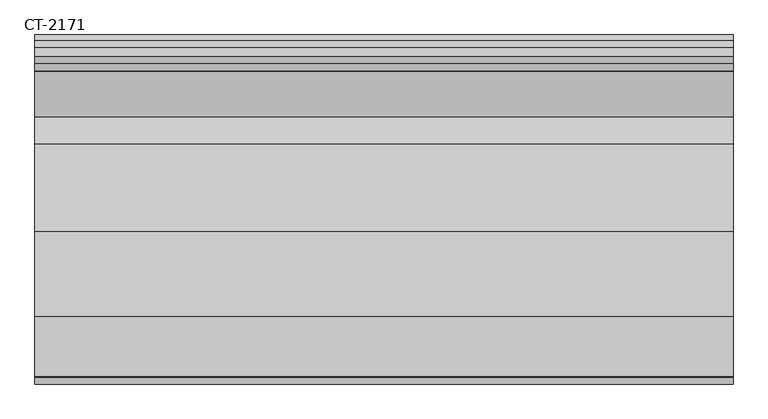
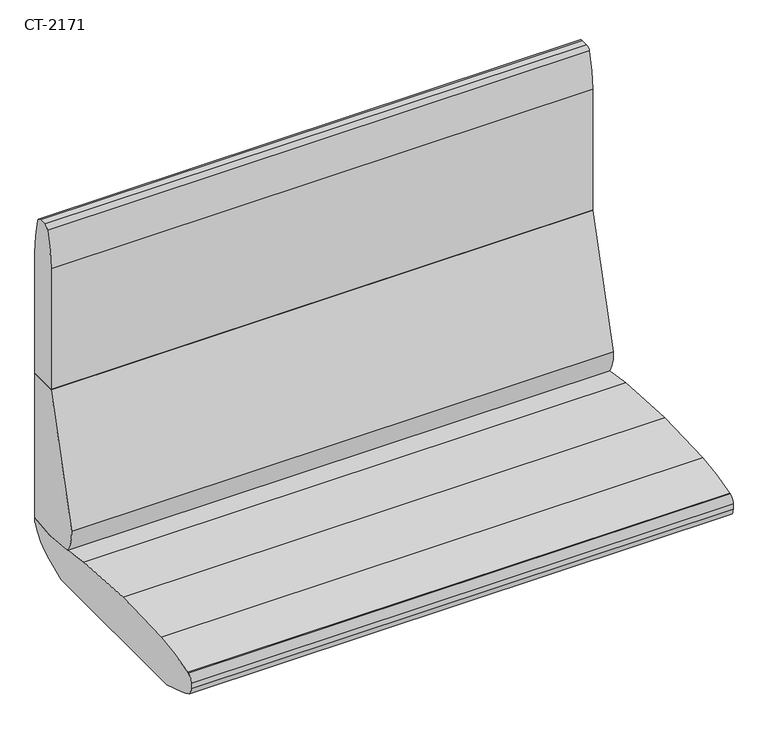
"""IFC4 building model written with IfcOpenShell, lengths in millimetres: furniture geometry, Davis_Furniture-Cantina-High_Back_Straight : CT-2171."""

from ifc_helpers import new_model, si_unit, point, frame, frame_2d, origin, place, context, project, spatial, polyline, circle_curve, trimmed, segment, composite_curve, outline, extrude, source, transform, mapped, element, save


def ct_2171_170751f1(model_context):
    return source(origin(), model_context, "Body", "SweptSolid", [
        extrude(outline(composite_curve([segment(polyline([(251.8776889, 780.2222424), (317.5, 780.2222424), (317.5, 422.8417878)]), True, "CONTINUOUS"), segment(trimmed(circle_curve(frame_2d((252.6571889, 734.4725425)), 318.3053839), [point((317.5, 422.8417878))], [point((195.0170524, 421.4295229))], False, "CARTESIAN"), True, "CONTINUOUS"), segment(trimmed(circle_curve(frame_2d((-42.4075795, -868.0213401)), 1311.12699), [point((195.0170524, 421.4295229))], [point((183.4762494, 423.5012032))], True, "CARTESIAN"), True, "CONTINUOUS"), segment(trimmed(circle_curve(frame_2d((262.7994143, 474.997645)), 94.5729772), [point((183.4762494, 423.5012032))], [point((168.334097, 479.5089455))], False, "CARTESIAN"), True, "CONTINUOUS"), segment(polyline([(168.334097, 479.5089455), (251.8776889, 780.2222424)]), True, "CONTINUOUS")], self_intersect=False)), frame((-635.0, 0.0, 0.0), z_axis=(1.0, 0.0, 0.0), x_axis=(0.0, 1.0, 0.0)), (0.0, 0.0, 1.0), 1270.0),
        extrude(outline(composite_curve([segment(trimmed(circle_curve(frame_2d((294.3906222, 1161.9216653)), 12.7), [point((294.3906222, 1174.6216653))], [point((306.6930666, 1165.0744199))], False, "CARTESIAN"), True, "CONTINUOUS"), segment(trimmed(circle_curve(frame_2d((-27.7298481, 1079.3716653)), 345.2298481), [point((306.6930666, 1165.0744199))], [point((317.5, 1079.3716653))], False, "CARTESIAN"), True, "CONTINUOUS"), segment(polyline([(317.5, 1079.3716653), (317.5, 780.2222424), (251.8776889, 780.2222424), (251.8776889, 1079.3716653)]), True, "CONTINUOUS"), segment(trimmed(circle_curve(frame_2d((520.06423, 1079.3716653)), 268.1865412), [point((251.8776889, 1079.3716653))], [point((266.2627436, 1166.0251495))], False, "CARTESIAN"), True, "CONTINUOUS"), segment(trimmed(circle_curve(frame_2d((278.2815379, 1161.9216653)), 12.7), [point((266.2627436, 1166.0251495))], [point((278.2815379, 1174.6216653))], False, "CARTESIAN"), True, "CONTINUOUS"), segment(polyline([(278.2815379, 1174.6216653), (294.3906222, 1174.6216653)]), True, "CONTINUOUS")], self_intersect=False)), frame((-635.0, 0.0, 0.0), z_axis=(1.0, 0.0, 0.0), x_axis=(0.0, 1.0, 0.0)), (0.0, 0.0, 1.0), 1270.0),
        extrude(outline(composite_curve([segment(trimmed(circle_curve(frame_2d((-298.45, 397.7963214)), 19.05), [point((-317.5, 397.7963214))], [point((-305.7075305, 415.40969))], False, "CARTESIAN"), True, "CONTINUOUS"), segment(trimmed(circle_curve(frame_2d((-158.75, 58.7570862)), 385.7429138), [point((-305.7075305, 415.40969))], [point((-303.9688287, 416.1211685))], False, "CARTESIAN"), True, "CONTINUOUS"), segment(trimmed(circle_curve(frame_2d((-152.4794636, -82.1541678)), 520.7949103), [point((-303.9688287, 416.1211685))], [point((-195.0051963, 436.9016101))], False, "CARTESIAN"), True, "CONTINUOUS"), segment(trimmed(circle_curve(frame_2d((-43.2851266, -1414.9460545)), 1858.0524085), [point((-195.0051963, 436.9016101))], [point((-40.3038638, 443.1039622))], False, "CARTESIAN"), True, "CONTINUOUS"), segment(trimmed(circle_curve(frame_2d((-42.4075795, -868.0213401)), 1311.12699), [point((-40.3038638, 443.1039622))], [point((118.3875039, 433.208434))], False, "CARTESIAN"), True, "CONTINUOUS"), segment(trimmed(circle_curve(frame_2d((-42.4075795, -868.0213401)), 1311.12699), [point((118.3875039, 433.208434))], [point((195.0170524, 421.4295229))], False, "CARTESIAN"), True, "CONTINUOUS"), segment(trimmed(circle_curve(frame_2d((252.6571889, 734.4725425)), 318.3053839), [point((195.0170524, 421.4295229))], [point((317.5, 422.8417878))], True, "CARTESIAN"), True, "CONTINUOUS"), segment(polyline([(317.5, 422.8417878), (317.5, 413.6705704)]), True, "CONTINUOUS"), segment(trimmed(circle_curve(frame_2d((311.15, 413.6705704)), 6.35), [point((317.5, 413.6705704))], [point((316.902532, 410.9815417))], False, "CARTESIAN"), True, "CONTINUOUS"), segment(trimmed(circle_curve(frame_2d((213.8512803, 459.1529865)), 113.7543343), [point((316.902532, 410.9815417))], [point((259.2429572, 354.8474534))], False, "CARTESIAN"), True, "CONTINUOUS"), segment(polyline([(259.2429572, 354.8474534), (211.060536, 333.8794297), (-217.9078165, 333.8794297), (-278.4661162, 352.9828937)]), True, "CONTINUOUS"), segment(trimmed(circle_curve(frame_2d((-183.2470513, 654.8289187)), 316.5085989), [point((-278.4661162, 352.9828937))], [point((-294.9895137, 358.7017243))], False, "CARTESIAN"), True, "CONTINUOUS"), segment(trimmed(circle_curve(frame_2d((-272.8348429, 417.4135188)), 62.7527231), [point((-294.9895137, 358.7017243))], [point((-306.6952536, 364.5800367))], False, "CARTESIAN"), True, "CONTINUOUS"), segment(trimmed(circle_curve(frame_2d((-294.0326067, 384.3379698)), 23.4673933), [point((-306.6952536, 364.5800367))], [point((-317.5, 384.3379698))], False, "CARTESIAN"), True, "CONTINUOUS"), segment(polyline([(-317.5, 384.3379698), (-317.5, 397.7963214)]), True, "CONTINUOUS")], self_intersect=False)), frame((-635.0, 0.0, 0.0), z_axis=(1.0, 0.0, 0.0), x_axis=(0.0, 1.0, 0.0)), (0.0, 0.0, 1.0), 1270.0),
    ])


if __name__ == "__main__":
    model = new_model("IFC4")
    model_context = context("Model", 3, world=origin())
    ifc_project = project(units=[si_unit("LENGTHUNIT", "METRE", prefix="MILLI")], contexts=[model_context])
    site = spatial("IfcSite", under=ifc_project)
    building = spatial("IfcBuilding", under=site)
    placement = place(None, origin())
    ct_2171_shape = ct_2171_170751f1(model_context)
    element("IfcFurniture", 1, ObjectType="Davis_Furniture-Cantina-High_Back_Straight : CT-2171", at=placement, inside=building, context=model_context, shape_type="MappedRepresentation", body=[
        mapped(ct_2171_shape, transform((0.0, 0.0, 0.0), x_axis=(1.0, 0.0, 0.0), y_axis=(0.0, 1.0, 0.0), z_axis=(0.0, 0.0, 1.0))),
    ])
    save(model, "model.ifc")
